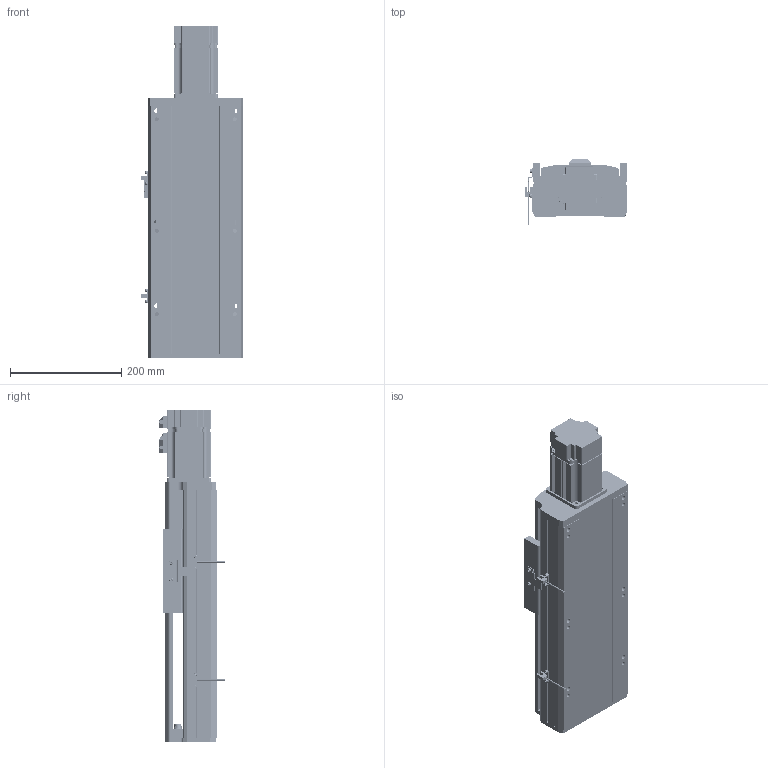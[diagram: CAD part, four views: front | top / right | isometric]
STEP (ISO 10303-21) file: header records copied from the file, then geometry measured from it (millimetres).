
FILE_DESCRIPTION (( 'STEP AP214' ), '1' );
FILE_NAME ('CTH170-200.STEP', '2019-11-25T08:45:42', ( '微软用户' ), ( '微软中国' ), 'SwSTEP 2.0', 'SolidWorks 2017', '' );
FILE_SCHEMA (( 'AUTOMOTIVE_DESIGN' ));
Length unit declared in the file: millimetre
Products named in the file (32): 支撑座^丝杠支撑座_CTH170-L10-200; B6002Z; _C-BSST2005_n; SFS2005-411-SZC; SFH2010佪裝; M3-L8囀鞠褒蹟佪; 80EMA-016A; EE-SX672峚倰換覜ん; 170萇儂啣; CT17耀郪-覜茼んえ; 170傷啣; M6-L20囀鞠褒蹟佪; EGH20CA; 蚾饜极3^CTH170-L10-200; M5-L20囀鞠褒蹟佪-BR L; M4-L10囀鞠褒蹟佪-BR L; M5-L10囀鞠褒蹟佪; 坶踡蹟簽M15x1; EGH20CA_BLOCK; 潔路遠COL15-A; EG20_RAIL; MISUMI_B7002-DB_盄俶絳砃粣; 170賑怢; BEARING_MISUMI_B7002-DB_盄俶絳砃粣; 170裔啣^CTH170-L10-200; 錨璃8^蚾饜极3_CTH170-L10-200; 錨璃2; 复件 轴承座^装配体3_CTH170-L10-200; 佪話盓傅釱^CTH170-L10-200; CTH170-200; M5-L16囀鞠褒蹟佪; 遣喳蝶15x12x8-BR L
Assembly tree (79 placements, depth 4):
  CTH170-200
    錨璃2
    170裔啣^CTH170-L10-200
    170賑怢
    EGH20CA  x2
      EG20_RAIL
      EGH20CA_BLOCK
      M5-L10囀鞠褒蹟佪
      M5-L20囀鞠褒蹟佪-BR L
    170傷啣
    170萇儂啣
    80EMA-016A
    SFS2005-411-SZC
      SFH2010佪裝
    _C-BSST2005_n
    佪話盓傅釱^CTH170-L10-200
      B6002Z
      支撑座^丝杠支撑座_CTH170-L10-200
      遣喳蝶15x12x8-BR L  x2
      M5-L16囀鞠褒蹟佪  x2
    蚾饜极3^CTH170-L10-200
      复件 轴承座^装配体3_CTH170-L10-200
      錨璃8^蚾饜极3_CTH170-L10-200
      MISUMI_B7002-DB_盄俶絳砃粣
        BEARING_MISUMI_B7002-DB_盄俶絳砃粣  x2
      潔路遠COL15-A  x2
      坶踡蹟簽M15x1
      M5-L16囀鞠褒蹟佪  x6
      M4-L10囀鞠褒蹟佪-BR L  x4
    遣喳蝶15x12x8-BR L  x2
    M6-L20囀鞠褒蹟佪  x4
    M4-L10囀鞠褒蹟佪-BR L  x10
    M5-L16囀鞠褒蹟佪  x4
    CT17耀郪-覜茼んえ
    EE-SX672峚倰換覜ん  x2
    M3-L8囀鞠褒蹟佪  x4
Bounding box: 183.7 x 117.95 x 596 mm (x, y, z)
Volume: 4073426.5 mm3; surface area: 1141262.3 mm2
Topology: 91 solids, 92 shells, 5461 faces, 14267 edges, 9106 vertices
Faces by surface type: plane 3090, cylinder 1388, cone 601, bspline 342, torus 40
Entity records: 95860 total; most frequent: CARTESIAN_POINT 20405, ORIENTED_EDGE 13756, DIRECTION 13353, EDGE_CURVE 6878, AXIS2_PLACEMENT_3D 4608, VERTEX_POINT 4470, VECTOR 4137, LINE 4137
